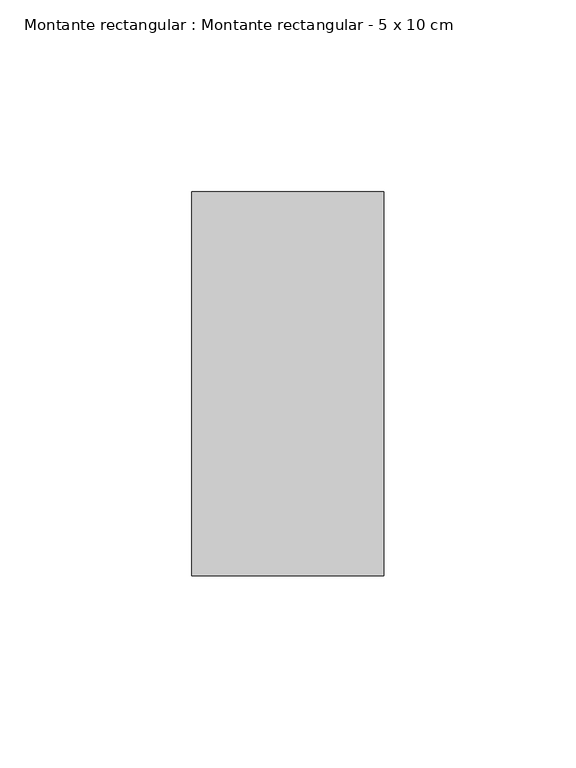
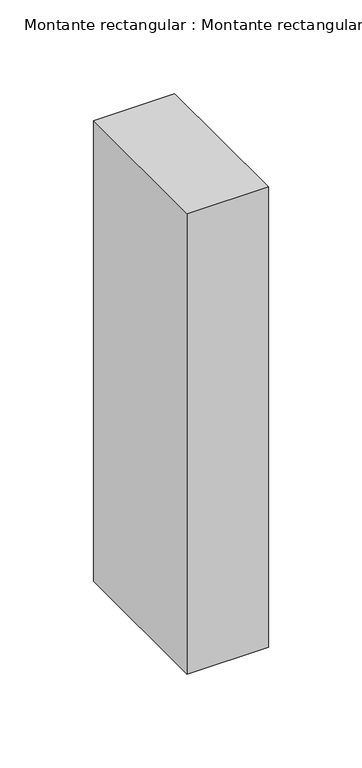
"""IFC4 building model written with IfcOpenShell, lengths in millimetres: member geometry, Montante rectangular : Montante rectangular - 5 x 10 cm."""

from ifc_helpers import new_model, si_unit, frame, origin, place, context, project, spatial, polyline, outline, extrude, source, transform, mapped, element, save


def montante_rectangular_montante_rectangular_5_x_10_cm_145ec2b0(model_context):
    return source(origin(), model_context, "Body", "SweptSolid", [
        extrude(outline(polyline([(0.0, 50.0), (0.0, -50.0), (-50.0, -50.0), (-50.0, 50.0), (0.0, 50.0)])), frame((0.0, 0.0, -300.0), z_axis=(0.0, 0.0, 1.0), x_axis=(1.0, 0.0, 0.0)), (0.0, 0.0, 1.0), 300.0),
    ])


if __name__ == "__main__":
    model = new_model("IFC4")
    model_context = context("Model", 3, world=origin())
    ifc_project = project(units=[si_unit("LENGTHUNIT", "METRE", prefix="MILLI")], contexts=[model_context])
    site = spatial("IfcSite", under=ifc_project)
    building = spatial("IfcBuilding", under=site)
    placement = place(None, origin())
    montante_rectangular_montante_rectangular_5_x_10_cm_shape = montante_rectangular_montante_rectangular_5_x_10_cm_145ec2b0(model_context)
    element("IfcMember", 1, ObjectType="Montante rectangular : Montante rectangular - 5 x 10 cm", at=placement, inside=building, context=model_context, shape_type="MappedRepresentation", body=[
        mapped(montante_rectangular_montante_rectangular_5_x_10_cm_shape, transform((0.0, 0.0, 0.0), x_axis=(1.0, 0.0, 0.0), y_axis=(0.0, 1.0, 0.0), z_axis=(0.0, 0.0, 1.0))),
    ])
    save(model, "model.ifc")
